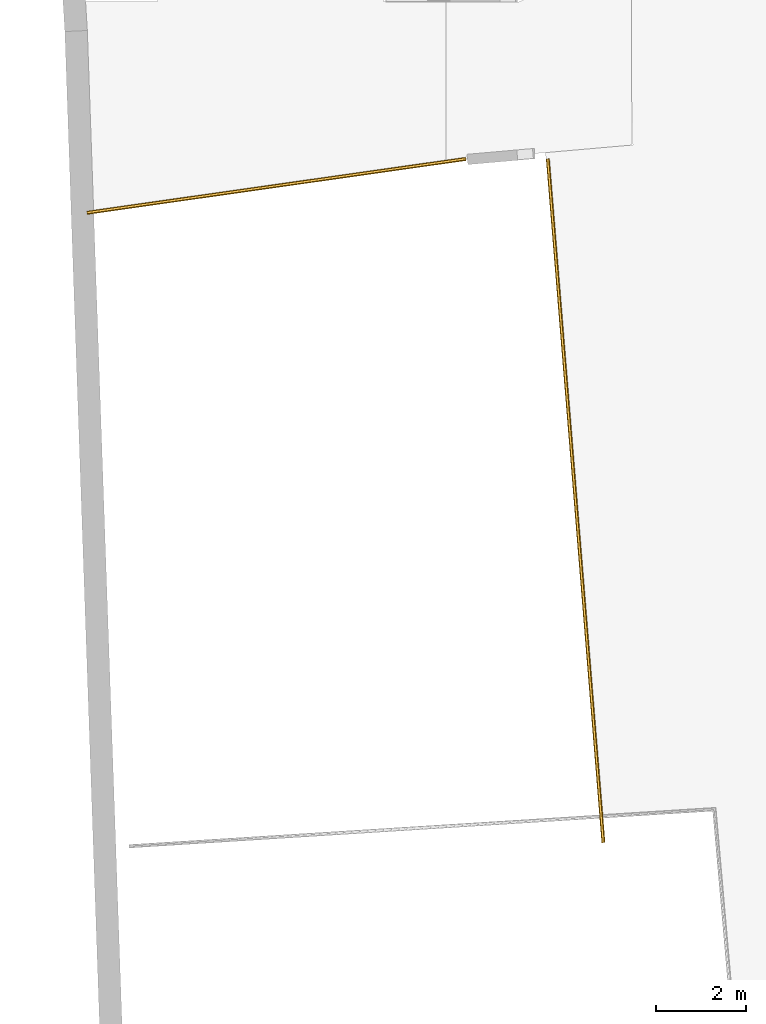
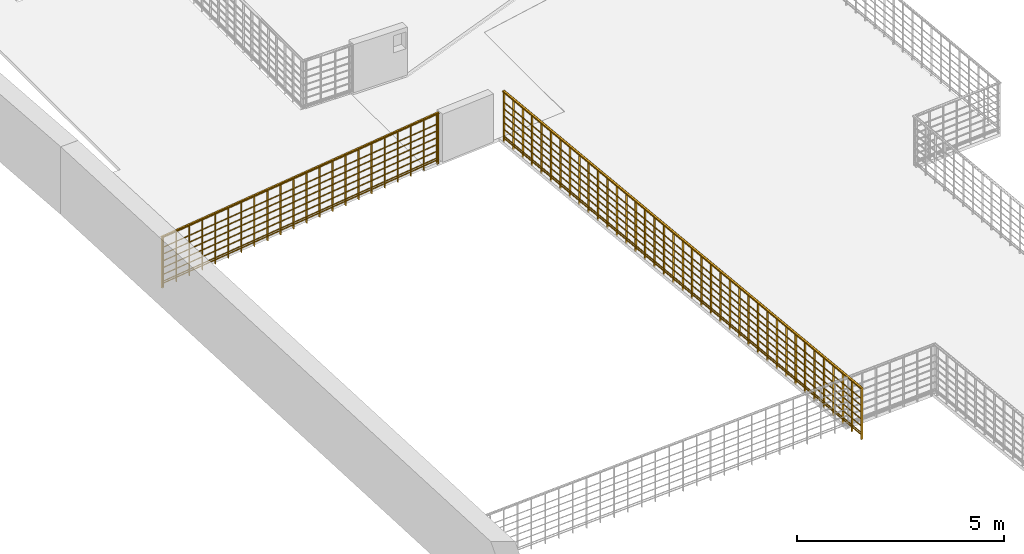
# One storey, part 24 of 30: 2 railings.
"""IFC2X3 building model written with IfcOpenShell, lengths in metres."""

from ifc_helpers import new_model, entity, si_unit, converted_unit, derived_unit, direction, frame, frame_2d, origin, origin_2d_with_axis, place, context, subcontext, project, spatial, polyline, rectangle, circle, outline, extrude, material, material_list, element, save


model = new_model("IFC2X3")

# Units and contexts
model_context = context("Model", 3, precision=1e-05, world=origin(), true_north=direction((6.12303176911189e-17, 1.0)))
body_context = subcontext(model_context, "Body", "Model", "MODEL_VIEW")
ifc_project = project(units=[si_unit("LENGTHUNIT", "METRE"), si_unit("AREAUNIT", "SQUARE_METRE"), si_unit("VOLUMEUNIT", "CUBIC_METRE"), converted_unit("PLANEANGLEUNIT", "DEGREE", entity("IfcRatioMeasure", 0.0174532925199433), si_unit("PLANEANGLEUNIT", "RADIAN"), dimensions=[0, 0, 0, 0, 0, 0, 0]), si_unit("MASSUNIT", "GRAM", prefix="KILO"), derived_unit("MASSDENSITYUNIT", [(si_unit("MASSUNIT", "GRAM", prefix="KILO"), 1), (si_unit("LENGTHUNIT", "METRE"), -3)]), si_unit("TIMEUNIT", "SECOND"), si_unit("FREQUENCYUNIT", "HERTZ"), si_unit("THERMODYNAMICTEMPERATUREUNIT", "DEGREE_CELSIUS"), derived_unit("THERMALTRANSMITTANCEUNIT", [(si_unit("MASSUNIT", "GRAM", prefix="KILO"), 1), (si_unit("THERMODYNAMICTEMPERATUREUNIT", "KELVIN"), -1), (si_unit("TIMEUNIT", "SECOND"), -3)]), derived_unit("VOLUMETRICFLOWRATEUNIT", [(si_unit("LENGTHUNIT", "METRE"), 3), (si_unit("TIMEUNIT", "SECOND"), -1)]), si_unit("ELECTRICCURRENTUNIT", "AMPERE"), si_unit("ELECTRICVOLTAGEUNIT", "VOLT"), si_unit("POWERUNIT", "WATT"), si_unit("FORCEUNIT", "NEWTON", prefix="KILO"), si_unit("ILLUMINANCEUNIT", "LUX"), si_unit("LUMINOUSFLUXUNIT", "LUMEN"), si_unit("LUMINOUSINTENSITYUNIT", "CANDELA"), derived_unit("USERDEFINED", [(si_unit("MASSUNIT", "GRAM", prefix="KILO"), -1), (si_unit("LENGTHUNIT", "METRE"), -2), (si_unit("TIMEUNIT", "SECOND"), 3), (si_unit("LUMINOUSFLUXUNIT", "LUMEN"), 1)]), derived_unit("LINEARVELOCITYUNIT", [(si_unit("LENGTHUNIT", "METRE"), 1), (si_unit("TIMEUNIT", "SECOND"), -1)]), si_unit("PRESSUREUNIT", "PASCAL"), derived_unit("USERDEFINED", [(si_unit("LENGTHUNIT", "METRE"), -2), (si_unit("MASSUNIT", "GRAM", prefix="KILO"), 1), (si_unit("TIMEUNIT", "SECOND"), -2)])], contexts=[model_context])

# Site, building, storey
site_placement = place(None, origin())
site = spatial("IfcSite", under=ifc_project, at=site_placement, Name="Surface", CompositionType="ELEMENT")
building_placement = place(site_placement, origin())
building = spatial("IfcBuilding", under=site, at=building_placement, CompositionType="ELEMENT")
storey_placement = place(building_placement, origin())
storey = spatial("IfcBuildingStorey", under=building, at=storey_placement, Name="Plan des fondations  Maisons 1 et 2", CompositionType="ELEMENT", Elevation=0.0)

# Railings
ifc_material_1 = material(Name="Bois")
ifc_material_2 = material(Name="Finition Peinture Grise")
ifc_material_list_1 = material_list([ifc_material_1, ifc_material_2])
railing_1_placement = place(building_placement, origin())
element("IfcRailing", 1, at=railing_1_placement, inside=storey, material=ifc_material_list_1, Name="Garde-corps:Type Bateau 1,50 m", ObjectType="Garde-corps:Type Bateau 1,50 m", PredefinedType="NOTDEFINED", context=body_context, shape_type="SweptSolid", body=[
    extrude(rectangle(XDim=0.0499999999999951, YDim=0.0140000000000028, at=frame_2d((-3.67761376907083e-15, 4.89755805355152e-15), x_axis=(1.0, 0.0))), frame((62.2926038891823, 64.7878063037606, -0.1), z_axis=(0.0, 0.0, 1.0), x_axis=(0.1408333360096, -0.990033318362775, 0.0)), (0.0, 0.0, 1.0), 1.46984653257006),
    extrude(rectangle(XDim=0.0499999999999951, YDim=0.0140000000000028, at=frame_2d((4.89538964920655e-15, 3.67848113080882e-15), x_axis=(1.0, 0.0))), frame((62.6886172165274, 64.8441396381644, -0.1), z_axis=(0.0, 0.0, 1.0), x_axis=(0.1408333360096, -0.990033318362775, 0.0)), (0.0, 0.0, 1.0), 1.46984653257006),
    extrude(rectangle(XDim=0.0499999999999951, YDim=0.0140000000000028, at=frame_2d((4.89538964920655e-15, 3.67848113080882e-15), x_axis=(1.0, 0.0))), frame((63.0846305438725, 64.9004729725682, -0.1), z_axis=(0.0, 0.0, 1.0), x_axis=(0.1408333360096, -0.990033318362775, 0.0)), (0.0, 0.0, 1.0), 1.46984653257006),
    extrude(rectangle(XDim=0.0499999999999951, YDim=0.0140000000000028, at=frame_2d((3.67761376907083e-15, -4.89755805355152e-15), x_axis=(1.0, 0.0))), frame((63.4806438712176, 64.956806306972, -0.1), z_axis=(0.0, 0.0, 1.0), x_axis=(0.1408333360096, -0.990033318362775, 0.0)), (0.0, 0.0, 1.0), 1.46984653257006),
    extrude(rectangle(XDim=0.0499999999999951, YDim=0.0140000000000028, at=frame_2d((4.89538964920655e-15, 3.67848113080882e-15), x_axis=(1.0, 0.0))), frame((63.8766571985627, 65.0131396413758, -0.1), z_axis=(0.0, 0.0, 1.0), x_axis=(0.1408333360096, -0.990033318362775, 0.0)), (0.0, 0.0, 1.0), 1.46984653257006),
    extrude(rectangle(XDim=0.0499999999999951, YDim=0.0140000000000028, at=frame_2d((4.89538964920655e-15, 3.67848113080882e-15), x_axis=(1.0, 0.0))), frame((64.2726705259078, 65.0694729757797, -0.1), z_axis=(0.0, 0.0, 1.0), x_axis=(0.1408333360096, -0.990033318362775, 0.0)), (0.0, 0.0, 1.0), 1.46984653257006),
    extrude(rectangle(XDim=0.0499999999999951, YDim=0.0140000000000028, at=frame_2d((4.89538964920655e-15, 3.67848113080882e-15), x_axis=(1.0, 0.0))), frame((64.6686838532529, 65.1258063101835, -0.1), z_axis=(0.0, 0.0, 1.0), x_axis=(0.1408333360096, -0.990033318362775, 0.0)), (0.0, 0.0, 1.0), 1.46984653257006),
    extrude(rectangle(XDim=0.0499999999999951, YDim=0.0140000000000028, at=frame_2d((-4.89538964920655e-15, -3.67848113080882e-15), x_axis=(1.0, 0.0))), frame((65.0646971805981, 65.1821396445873, -0.1), z_axis=(0.0, 0.0, 1.0), x_axis=(0.1408333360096, -0.990033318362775, 0.0)), (0.0, 0.0, 1.0), 1.46984653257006),
    extrude(rectangle(XDim=0.0499999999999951, YDim=0.0140000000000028, at=frame_2d((3.67761376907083e-15, -4.89755805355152e-15), x_axis=(1.0, 0.0))), frame((65.4607105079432, 65.2384729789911, -0.1), z_axis=(0.0, 0.0, 1.0), x_axis=(0.1408333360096, -0.990033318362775, 0.0)), (0.0, 0.0, 1.0), 1.46984653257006),
    extrude(rectangle(XDim=0.0499999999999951, YDim=0.0140000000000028, at=frame_2d((4.89538964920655e-15, 3.67848113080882e-15), x_axis=(1.0, 0.0))), frame((65.8567238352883, 65.2948063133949, -0.1), z_axis=(0.0, 0.0, 1.0), x_axis=(0.1408333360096, -0.990033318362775, 0.0)), (0.0, 0.0, 1.0), 1.46984653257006),
    extrude(rectangle(XDim=0.0499999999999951, YDim=0.0140000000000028, at=frame_2d((4.89538964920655e-15, 3.67848113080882e-15), x_axis=(1.0, 0.0))), frame((66.2527371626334, 65.3511396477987, -0.1), z_axis=(0.0, 0.0, 1.0), x_axis=(0.1408333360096, -0.990033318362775, 0.0)), (0.0, 0.0, 1.0), 1.46984653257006),
    extrude(rectangle(XDim=0.0499999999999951, YDim=0.0140000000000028, at=frame_2d((4.89538964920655e-15, 3.67848113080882e-15), x_axis=(1.0, 0.0))), frame((66.6487504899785, 65.4074729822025, -0.1), z_axis=(0.0, 0.0, 1.0), x_axis=(0.1408333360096, -0.990033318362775, 0.0)), (0.0, 0.0, 1.0), 1.46984653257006),
    extrude(rectangle(XDim=0.0499999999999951, YDim=0.0140000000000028, at=frame_2d((3.67761376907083e-15, -4.89755805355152e-15), x_axis=(1.0, 0.0))), frame((67.0447638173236, 65.4638063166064, -0.1), z_axis=(0.0, 0.0, 1.0), x_axis=(0.1408333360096, -0.990033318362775, 0.0)), (0.0, 0.0, 1.0), 1.46984653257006),
    extrude(rectangle(XDim=0.0499999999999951, YDim=0.0140000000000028, at=frame_2d((3.67761376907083e-15, -4.89755805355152e-15), x_axis=(1.0, 0.0))), frame((67.4407771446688, 65.5201396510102, -0.1), z_axis=(0.0, 0.0, 1.0), x_axis=(0.1408333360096, -0.990033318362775, 0.0)), (0.0, 0.0, 1.0), 1.46984653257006),
    extrude(rectangle(XDim=0.0499999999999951, YDim=0.0140000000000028, at=frame_2d((-3.67761376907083e-15, 4.89755805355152e-15), x_axis=(1.0, 0.0))), frame((67.8367904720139, 65.576472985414, -0.1), z_axis=(0.0, 0.0, 1.0), x_axis=(0.1408333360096, -0.990033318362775, 0.0)), (0.0, 0.0, 1.0), 1.46984653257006),
    extrude(rectangle(XDim=0.0499999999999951, YDim=0.0140000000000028, at=frame_2d((4.89538964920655e-15, 3.67848113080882e-15), x_axis=(1.0, 0.0))), frame((68.232803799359, 65.6328063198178, -0.1), z_axis=(0.0, 0.0, 1.0), x_axis=(0.1408333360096, -0.990033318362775, 0.0)), (0.0, 0.0, 1.0), 1.46984653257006),
    extrude(rectangle(XDim=0.0499999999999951, YDim=0.0140000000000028, at=frame_2d((3.67761376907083e-15, -4.89755805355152e-15), x_axis=(1.0, 0.0))), frame((68.6288171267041, 65.6891396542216, -0.1), z_axis=(0.0, 0.0, 1.0), x_axis=(0.1408333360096, -0.990033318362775, 0.0)), (0.0, 0.0, 1.0), 1.46984653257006),
    extrude(rectangle(XDim=0.0499999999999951, YDim=0.0140000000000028, at=frame_2d((3.67761376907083e-15, -4.89755805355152e-15), x_axis=(1.0, 0.0))), frame((69.0248304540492, 65.7454729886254, -0.1), z_axis=(0.0, 0.0, 1.0), x_axis=(0.1408333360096, -0.990033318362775, 0.0)), (0.0, 0.0, 1.0), 1.46984653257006),
    extrude(rectangle(XDim=0.0499999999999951, YDim=0.0140000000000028, at=frame_2d((3.67761376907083e-15, -4.89755805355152e-15), x_axis=(1.0, 0.0))), frame((69.4208437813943, 65.8018063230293, -0.1), z_axis=(0.0, 0.0, 1.0), x_axis=(0.1408333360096, -0.990033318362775, 0.0)), (0.0, 0.0, 1.0), 1.46984653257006),
    extrude(rectangle(XDim=0.0499999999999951, YDim=0.0140000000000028, at=frame_2d((4.89538964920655e-15, 3.67848113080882e-15), x_axis=(1.0, 0.0))), frame((69.8168571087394, 65.8581396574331, -0.1), z_axis=(0.0, 0.0, 1.0), x_axis=(0.1408333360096, -0.990033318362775, 0.0)), (0.0, 0.0, 1.0), 1.46984653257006),
    extrude(rectangle(XDim=0.0499999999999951, YDim=0.0140000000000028, at=frame_2d((4.89538964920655e-15, 3.67848113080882e-15), x_axis=(1.0, 0.0))), frame((70.2128704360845, 65.9144729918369, -0.1), z_axis=(0.0, 0.0, 1.0), x_axis=(0.1408333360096, -0.990033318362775, 0.0)), (0.0, 0.0, 1.0), 1.46984653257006),
    extrude(rectangle(XDim=0.0499999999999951, YDim=0.0140000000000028, at=frame_2d((3.67761376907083e-15, -4.89755805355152e-15), x_axis=(1.0, 0.0))), frame((70.6088837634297, 65.9708063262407, -0.1), z_axis=(0.0, 0.0, 1.0), x_axis=(0.1408333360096, -0.990033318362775, 0.0)), (0.0, 0.0, 1.0), 1.46984653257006),
    extrude(rectangle(XDim=0.0499999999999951, YDim=0.0140000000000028, at=frame_2d((3.67761376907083e-15, -4.89755805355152e-15), x_axis=(1.0, 0.0))), frame((62.2530025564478, 64.7821729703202, -0.1), z_axis=(0.0, 0.0, 1.0), x_axis=(0.1408333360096, -0.990033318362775, 0.0)), (0.0, 0.0, 1.0), 1.46984653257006),
    extrude(rectangle(XDim=0.0499999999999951, YDim=0.0140000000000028, at=frame_2d((4.89538964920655e-15, 3.67848113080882e-15), x_axis=(1.0, 0.0))), frame((70.6484850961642, 65.9764396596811, -0.1), z_axis=(0.0, 0.0, 1.0), x_axis=(0.1408333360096, -0.990033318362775, 0.0)), (0.0, 0.0, 1.0), 1.46984653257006),
    extrude(outline(polyline([(-0.0109067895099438, -0.0384843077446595), (0.00177588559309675, -0.0384843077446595), (0.0141514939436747, -0.0318300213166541), (0.0240801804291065, -0.0196720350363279), (0.0298451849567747, -0.00411257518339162), (0.0304496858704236, 0.0121579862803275), (0.0257891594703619, 0.0263263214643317), (0.016669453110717, 0.035942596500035), (0.0109067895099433, 0.0384843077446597), (-0.00177588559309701, 0.0384843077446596), (-0.0141514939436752, 0.0318300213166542), (-0.024080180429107, 0.019672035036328), (-0.0298451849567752, 0.00411257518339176), (-0.0304496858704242, -0.0121579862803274), (-0.0257891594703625, -0.0263263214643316), (-0.0166694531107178, -0.0359425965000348), (-0.0109067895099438, -0.0384843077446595)])), frame((62.2443398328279, 64.7804366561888, 1.4), z_axis=(0.990033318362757, 0.140833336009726, 0.0), x_axis=(-0.0384009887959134, 0.269952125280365, -0.962107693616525)), (0.0, 0.0, 1.0), 8.5),
    extrude(circle(Radius=0.015, at=origin_2d_with_axis()), frame((62.2443398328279, 64.7804366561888, 0.025), z_axis=(0.990033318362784, 0.140833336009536, 0.0), x_axis=(-0.140833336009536, 0.990033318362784, 0.0)), (0.0, 0.0, 1.0), 8.5),
    extrude(circle(Radius=0.015, at=origin_2d_with_axis()), frame((62.2443398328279, 64.7804366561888, 1.085), z_axis=(0.990033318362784, 0.140833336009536, 0.0), x_axis=(-0.140833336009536, 0.990033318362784, 0.0)), (0.0, 0.0, 1.0), 8.5),
    extrude(circle(Radius=0.015, at=origin_2d_with_axis()), frame((62.2443398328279, 64.7804366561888, 0.885), z_axis=(0.990033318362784, 0.140833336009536, 0.0), x_axis=(-0.140833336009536, 0.990033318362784, 0.0)), (0.0, 0.0, 1.0), 8.5),
    extrude(circle(Radius=0.015, at=origin_2d_with_axis()), frame((62.2443398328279, 64.7804366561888, 0.685), z_axis=(0.990033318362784, 0.140833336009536, 0.0), x_axis=(-0.140833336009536, 0.990033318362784, 0.0)), (0.0, 0.0, 1.0), 8.5),
    extrude(circle(Radius=0.015, at=origin_2d_with_axis()), frame((62.2443398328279, 64.7804366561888, 0.485), z_axis=(0.990033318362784, 0.140833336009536, 0.0), x_axis=(-0.140833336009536, 0.990033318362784, 0.0)), (0.0, 0.0, 1.0), 8.5),
    extrude(circle(Radius=0.015, at=origin_2d_with_axis()), frame((62.2443398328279, 64.7804366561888, 0.285), z_axis=(0.990033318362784, 0.140833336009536, 0.0), x_axis=(-0.140833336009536, 0.990033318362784, 0.0)), (0.0, 0.0, 1.0), 8.5),
    extrude(circle(Radius=0.015, at=origin_2d_with_axis()), frame((62.2443398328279, 64.7804366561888, 0.085), z_axis=(0.990033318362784, 0.140833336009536, 0.0), x_axis=(-0.140833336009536, 0.990033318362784, 0.0)), (0.0, 0.0, 1.0), 8.5),
])
ifc_material_list_2 = material_list([ifc_material_1, ifc_material_2])
railing_2_placement = place(building_placement, origin())
element("IfcRailing", 2, at=railing_2_placement, inside=storey, material=ifc_material_list_2, Name="Garde-corps:Type Bateau 1,50 m", ObjectType="Garde-corps:Type Bateau 1,50 m", PredefinedType="NOTDEFINED", context=body_context, shape_type="SweptSolid", body=[
    extrude(rectangle(XDim=0.0500000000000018, YDim=0.0139999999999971, at=frame_2d((3.50414142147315e-16, 4.31729305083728e-15), x_axis=(1.0, 0.0))), frame((73.7113185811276, 50.8112138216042, -0.1), z_axis=(0.0, 0.0, 1.0), x_axis=(0.996709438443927, 0.0810573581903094, 0.0)), (0.0, 0.0, 1.0), 1.46984653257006),
    extrude(rectangle(XDim=0.0500000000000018, YDim=0.0139999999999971, at=frame_2d((3.50414142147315e-16, 4.31729305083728e-15), x_axis=(1.0, 0.0))), frame((73.6788956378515, 51.2098975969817, -0.1), z_axis=(0.0, 0.0, 1.0), x_axis=(0.996709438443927, 0.0810573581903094, 0.0)), (0.0, 0.0, 1.0), 1.46984653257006),
    extrude(rectangle(XDim=0.0500000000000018, YDim=0.0139999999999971, at=frame_2d((-3.50414142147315e-16, -4.31729305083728e-15), x_axis=(1.0, 0.0))), frame((73.6464726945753, 51.6085813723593, -0.1), z_axis=(0.0, 0.0, 1.0), x_axis=(0.996709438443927, 0.0810573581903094, 0.0)), (0.0, 0.0, 1.0), 1.46984653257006),
    extrude(rectangle(XDim=0.0500000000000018, YDim=0.0139999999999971, at=frame_2d((-3.50414142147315e-16, -4.31729305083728e-15), x_axis=(1.0, 0.0))), frame((73.6140497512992, 52.0072651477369, -0.1), z_axis=(0.0, 0.0, 1.0), x_axis=(0.996709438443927, 0.0810573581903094, 0.0)), (0.0, 0.0, 1.0), 1.46984653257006),
    extrude(rectangle(XDim=0.0500000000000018, YDim=0.0139999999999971, at=frame_2d((3.50414142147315e-16, 4.31729305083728e-15), x_axis=(1.0, 0.0))), frame((73.5816268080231, 52.4059489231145, -0.1), z_axis=(0.0, 0.0, 1.0), x_axis=(0.996709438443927, 0.0810573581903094, 0.0)), (0.0, 0.0, 1.0), 1.46984653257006),
    extrude(rectangle(XDim=0.0500000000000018, YDim=0.0139999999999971, at=frame_2d((3.50414142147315e-16, 4.31729305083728e-15), x_axis=(1.0, 0.0))), frame((73.549203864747, 52.804632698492, -0.1), z_axis=(0.0, 0.0, 1.0), x_axis=(0.996709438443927, 0.0810573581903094, 0.0)), (0.0, 0.0, 1.0), 1.46984653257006),
    extrude(rectangle(XDim=0.0500000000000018, YDim=0.0139999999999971, at=frame_2d((-8.28156987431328e-15, 5.01942237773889e-15), x_axis=(1.0, 0.0))), frame((73.5167809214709, 53.2033164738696, -0.1), z_axis=(0.0, 0.0, 1.0), x_axis=(0.996709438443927, 0.0810573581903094, 0.0)), (0.0, 0.0, 1.0), 1.46984653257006),
    extrude(rectangle(XDim=0.0500000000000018, YDim=0.0139999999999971, at=frame_2d((-8.28156987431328e-15, 5.01942237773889e-15), x_axis=(1.0, 0.0))), frame((73.4843579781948, 53.6020002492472, -0.1), z_axis=(0.0, 0.0, 1.0), x_axis=(0.996709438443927, 0.0810573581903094, 0.0)), (0.0, 0.0, 1.0), 1.46984653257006),
    extrude(rectangle(XDim=0.0500000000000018, YDim=0.0139999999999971, at=frame_2d((3.50414142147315e-16, 4.31729305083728e-15), x_axis=(1.0, 0.0))), frame((73.4519350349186, 54.0006840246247, -0.1), z_axis=(0.0, 0.0, 1.0), x_axis=(0.996709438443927, 0.0810573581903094, 0.0)), (0.0, 0.0, 1.0), 1.46984653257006),
    extrude(rectangle(XDim=0.0500000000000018, YDim=0.0139999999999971, at=frame_2d((3.50414142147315e-16, 4.31729305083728e-15), x_axis=(1.0, 0.0))), frame((73.4195120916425, 54.3993678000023, -0.1), z_axis=(0.0, 0.0, 1.0), x_axis=(0.996709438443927, 0.0810573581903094, 0.0)), (0.0, 0.0, 1.0), 1.46984653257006),
    extrude(rectangle(XDim=0.0500000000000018, YDim=0.0139999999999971, at=frame_2d((3.50414142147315e-16, 4.31729305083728e-15), x_axis=(1.0, 0.0))), frame((73.3870891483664, 54.7980515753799, -0.1), z_axis=(0.0, 0.0, 1.0), x_axis=(0.996709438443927, 0.0810573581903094, 0.0)), (0.0, 0.0, 1.0), 1.46984653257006),
    extrude(rectangle(XDim=0.0500000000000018, YDim=0.0139999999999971, at=frame_2d((3.50414142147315e-16, 4.31729305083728e-15), x_axis=(1.0, 0.0))), frame((73.3546662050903, 55.1967353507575, -0.1), z_axis=(0.0, 0.0, 1.0), x_axis=(0.996709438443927, 0.0810573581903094, 0.0)), (0.0, 0.0, 1.0), 1.46984653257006),
    extrude(rectangle(XDim=0.0500000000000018, YDim=0.0139999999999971, at=frame_2d((3.50414142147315e-16, 4.31729305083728e-15), x_axis=(1.0, 0.0))), frame((73.3222432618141, 55.595419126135, -0.1), z_axis=(0.0, 0.0, 1.0), x_axis=(0.996709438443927, 0.0810573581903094, 0.0)), (0.0, 0.0, 1.0), 1.46984653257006),
    extrude(rectangle(XDim=0.0500000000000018, YDim=0.0139999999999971, at=frame_2d((-3.50414142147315e-16, -4.31729305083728e-15), x_axis=(1.0, 0.0))), frame((73.289820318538, 55.9941029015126, -0.1), z_axis=(0.0, 0.0, 1.0), x_axis=(0.996709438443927, 0.0810573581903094, 0.0)), (0.0, 0.0, 1.0), 1.46984653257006),
    extrude(rectangle(XDim=0.0500000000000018, YDim=0.0139999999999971, at=frame_2d((3.50414142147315e-16, 4.31729305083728e-15), x_axis=(1.0, 0.0))), frame((73.2573973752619, 56.3927866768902, -0.1), z_axis=(0.0, 0.0, 1.0), x_axis=(0.996709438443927, 0.0810573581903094, 0.0)), (0.0, 0.0, 1.0), 1.46984653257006),
    extrude(rectangle(XDim=0.0500000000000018, YDim=0.0139999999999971, at=frame_2d((3.50414142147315e-16, 4.31729305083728e-15), x_axis=(1.0, 0.0))), frame((73.2249744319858, 56.7914704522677, -0.1), z_axis=(0.0, 0.0, 1.0), x_axis=(0.996709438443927, 0.0810573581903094, 0.0)), (0.0, 0.0, 1.0), 1.46984653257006),
    extrude(rectangle(XDim=0.0500000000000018, YDim=0.0139999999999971, at=frame_2d((3.50414142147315e-16, 4.31729305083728e-15), x_axis=(1.0, 0.0))), frame((73.1925514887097, 57.1901542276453, -0.1), z_axis=(0.0, 0.0, 1.0), x_axis=(0.996709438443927, 0.0810573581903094, 0.0)), (0.0, 0.0, 1.0), 1.46984653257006),
    extrude(rectangle(XDim=0.0500000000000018, YDim=0.0139999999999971, at=frame_2d((3.50414142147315e-16, 4.31729305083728e-15), x_axis=(1.0, 0.0))), frame((73.1601285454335, 57.5888380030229, -0.1), z_axis=(0.0, 0.0, 1.0), x_axis=(0.996709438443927, 0.0810573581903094, 0.0)), (0.0, 0.0, 1.0), 1.46984653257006),
    extrude(rectangle(XDim=0.0500000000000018, YDim=0.0139999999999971, at=frame_2d((-3.50414142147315e-16, -4.31729305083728e-15), x_axis=(1.0, 0.0))), frame((73.1277056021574, 57.9875217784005, -0.1), z_axis=(0.0, 0.0, 1.0), x_axis=(0.996709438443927, 0.0810573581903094, 0.0)), (0.0, 0.0, 1.0), 1.46984653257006),
    extrude(rectangle(XDim=0.0500000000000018, YDim=0.0139999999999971, at=frame_2d((3.50414142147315e-16, 4.31729305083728e-15), x_axis=(1.0, 0.0))), frame((73.0952826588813, 58.386205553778, -0.1), z_axis=(0.0, 0.0, 1.0), x_axis=(0.996709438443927, 0.0810573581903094, 0.0)), (0.0, 0.0, 1.0), 1.46984653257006),
    extrude(rectangle(XDim=0.0500000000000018, YDim=0.0139999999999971, at=frame_2d((3.50414142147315e-16, 4.31729305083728e-15), x_axis=(1.0, 0.0))), frame((73.0628597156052, 58.7848893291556, -0.1), z_axis=(0.0, 0.0, 1.0), x_axis=(0.996709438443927, 0.0810573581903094, 0.0)), (0.0, 0.0, 1.0), 1.46984653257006),
    extrude(rectangle(XDim=0.0500000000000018, YDim=0.0139999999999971, at=frame_2d((-8.28156987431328e-15, 5.01942237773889e-15), x_axis=(1.0, 0.0))), frame((73.0304367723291, 59.1835731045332, -0.1), z_axis=(0.0, 0.0, 1.0), x_axis=(0.996709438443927, 0.0810573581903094, 0.0)), (0.0, 0.0, 1.0), 1.46984653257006),
    extrude(rectangle(XDim=0.0500000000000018, YDim=0.0139999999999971, at=frame_2d((-8.28156987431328e-15, 5.01942237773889e-15), x_axis=(1.0, 0.0))), frame((72.9980138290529, 59.5822568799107, -0.1), z_axis=(0.0, 0.0, 1.0), x_axis=(0.996709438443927, 0.0810573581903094, 0.0)), (0.0, 0.0, 1.0), 1.46984653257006),
    extrude(rectangle(XDim=0.0500000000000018, YDim=0.0139999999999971, at=frame_2d((-3.50414142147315e-16, -4.31729305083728e-15), x_axis=(1.0, 0.0))), frame((72.9655908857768, 59.9809406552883, -0.1), z_axis=(0.0, 0.0, 1.0), x_axis=(0.996709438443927, 0.0810573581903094, 0.0)), (0.0, 0.0, 1.0), 1.46984653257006),
    extrude(rectangle(XDim=0.0500000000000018, YDim=0.0139999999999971, at=frame_2d((3.50414142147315e-16, 4.31729305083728e-15), x_axis=(1.0, 0.0))), frame((72.9331679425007, 60.3796244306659, -0.1), z_axis=(0.0, 0.0, 1.0), x_axis=(0.996709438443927, 0.0810573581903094, 0.0)), (0.0, 0.0, 1.0), 1.46984653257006),
    extrude(rectangle(XDim=0.0500000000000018, YDim=0.0139999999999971, at=frame_2d((3.50414142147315e-16, 4.31729305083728e-15), x_axis=(1.0, 0.0))), frame((72.9007449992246, 60.7783082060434, -0.1), z_axis=(0.0, 0.0, 1.0), x_axis=(0.996709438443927, 0.0810573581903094, 0.0)), (0.0, 0.0, 1.0), 1.46984653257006),
    extrude(rectangle(XDim=0.0500000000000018, YDim=0.0139999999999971, at=frame_2d((3.50414142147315e-16, 4.31729305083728e-15), x_axis=(1.0, 0.0))), frame((72.8683220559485, 61.176991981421, -0.1), z_axis=(0.0, 0.0, 1.0), x_axis=(0.996709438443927, 0.0810573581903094, 0.0)), (0.0, 0.0, 1.0), 1.46984653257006),
    extrude(rectangle(XDim=0.0500000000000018, YDim=0.0139999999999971, at=frame_2d((3.50414142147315e-16, 4.31729305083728e-15), x_axis=(1.0, 0.0))), frame((72.8358991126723, 61.5756757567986, -0.1), z_axis=(0.0, 0.0, 1.0), x_axis=(0.996709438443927, 0.0810573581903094, 0.0)), (0.0, 0.0, 1.0), 1.46984653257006),
    extrude(rectangle(XDim=0.0500000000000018, YDim=0.0139999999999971, at=frame_2d((-3.50414142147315e-16, -4.31729305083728e-15), x_axis=(1.0, 0.0))), frame((72.8034761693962, 61.9743595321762, -0.1), z_axis=(0.0, 0.0, 1.0), x_axis=(0.996709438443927, 0.0810573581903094, 0.0)), (0.0, 0.0, 1.0), 1.46984653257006),
    extrude(rectangle(XDim=0.0500000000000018, YDim=0.0139999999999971, at=frame_2d((3.50414142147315e-16, 4.31729305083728e-15), x_axis=(1.0, 0.0))), frame((72.7710532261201, 62.3730433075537, -0.1), z_axis=(0.0, 0.0, 1.0), x_axis=(0.996709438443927, 0.0810573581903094, 0.0)), (0.0, 0.0, 1.0), 1.46984653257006),
    extrude(rectangle(XDim=0.0500000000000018, YDim=0.0139999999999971, at=frame_2d((3.50414142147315e-16, 4.31729305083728e-15), x_axis=(1.0, 0.0))), frame((72.738630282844, 62.7717270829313, -0.1), z_axis=(0.0, 0.0, 1.0), x_axis=(0.996709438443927, 0.0810573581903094, 0.0)), (0.0, 0.0, 1.0), 1.46984653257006),
    extrude(rectangle(XDim=0.0500000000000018, YDim=0.0139999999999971, at=frame_2d((-3.50414142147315e-16, -4.31729305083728e-15), x_axis=(1.0, 0.0))), frame((72.7062073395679, 63.1704108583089, -0.1), z_axis=(0.0, 0.0, 1.0), x_axis=(0.996709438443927, 0.0810573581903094, 0.0)), (0.0, 0.0, 1.0), 1.46984653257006),
    extrude(rectangle(XDim=0.0500000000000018, YDim=0.0139999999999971, at=frame_2d((3.50414142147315e-16, 4.31729305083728e-15), x_axis=(1.0, 0.0))), frame((72.6737843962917, 63.5690946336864, -0.1), z_axis=(0.0, 0.0, 1.0), x_axis=(0.996709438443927, 0.0810573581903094, 0.0)), (0.0, 0.0, 1.0), 1.46984653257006),
    extrude(rectangle(XDim=0.0500000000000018, YDim=0.0139999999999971, at=frame_2d((-3.50414142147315e-16, -4.31729305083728e-15), x_axis=(1.0, 0.0))), frame((72.6413614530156, 63.967778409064, -0.1), z_axis=(0.0, 0.0, 1.0), x_axis=(0.996709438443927, 0.0810573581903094, 0.0)), (0.0, 0.0, 1.0), 1.46984653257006),
    extrude(rectangle(XDim=0.0500000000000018, YDim=0.0139999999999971, at=frame_2d((3.50414142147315e-16, 4.31729305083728e-15), x_axis=(1.0, 0.0))), frame((72.6089385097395, 64.3664621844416, -0.1), z_axis=(0.0, 0.0, 1.0), x_axis=(0.996709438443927, 0.0810573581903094, 0.0)), (0.0, 0.0, 1.0), 1.46984653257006),
    extrude(rectangle(XDim=0.0500000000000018, YDim=0.0139999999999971, at=frame_2d((3.50414142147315e-16, 4.31729305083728e-15), x_axis=(1.0, 0.0))), frame((72.5765155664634, 64.7651459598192, -0.1), z_axis=(0.0, 0.0, 1.0), x_axis=(0.996709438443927, 0.0810573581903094, 0.0)), (0.0, 0.0, 1.0), 1.46984653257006),
    extrude(rectangle(XDim=0.0500000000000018, YDim=0.0139999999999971, at=frame_2d((-3.50414142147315e-16, -4.31729305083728e-15), x_axis=(1.0, 0.0))), frame((72.5440926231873, 65.1638297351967, -0.1), z_axis=(0.0, 0.0, 1.0), x_axis=(0.996709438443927, 0.0810573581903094, 0.0)), (0.0, 0.0, 1.0), 1.46984653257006),
    extrude(rectangle(XDim=0.0500000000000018, YDim=0.0139999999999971, at=frame_2d((-8.28156987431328e-15, 5.01942237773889e-15), x_axis=(1.0, 0.0))), frame((72.5116696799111, 65.5625135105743, -0.1), z_axis=(0.0, 0.0, 1.0), x_axis=(0.996709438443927, 0.0810573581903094, 0.0)), (0.0, 0.0, 1.0), 1.46984653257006),
    extrude(rectangle(XDim=0.0500000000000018, YDim=0.0139999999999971, at=frame_2d((-8.98413288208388e-15, -3.61473004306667e-15), x_axis=(1.0, 0.0))), frame((72.479246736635, 65.9611972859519, -0.1), z_axis=(0.0, 0.0, 1.0), x_axis=(0.996709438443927, 0.0810573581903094, 0.0)), (0.0, 0.0, 1.0), 1.46984653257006),
    extrude(rectangle(XDim=0.0500000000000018, YDim=0.0139999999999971, at=frame_2d((-8.28156987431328e-15, 5.01942237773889e-15), x_axis=(1.0, 0.0))), frame((73.7120393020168, 50.8023515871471, -0.1), z_axis=(0.0, 0.0, 1.0), x_axis=(0.996709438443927, 0.0810573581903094, 0.0)), (0.0, 0.0, 1.0), 1.46984653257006),
    extrude(rectangle(XDim=0.0500000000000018, YDim=0.0139999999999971, at=frame_2d((3.50414142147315e-16, 4.31729305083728e-15), x_axis=(1.0, 0.0))), frame((72.4785260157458, 65.9700595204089, -0.1), z_axis=(0.0, 0.0, 1.0), x_axis=(0.996709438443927, 0.0810573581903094, 0.0)), (0.0, 0.0, 1.0), 1.46984653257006),
    extrude(outline(polyline([(-0.0109067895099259, -0.038484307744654), (0.00177588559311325, -0.038484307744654), (0.0141514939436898, -0.0318300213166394), (0.0240801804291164, -0.0196720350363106), (0.02984518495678, -0.00411257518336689), (0.0304496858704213, 0.012157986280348), (0.0257891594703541, 0.0263263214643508), (0.0166694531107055, 0.0359425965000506), (0.0109067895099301, 0.0384843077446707), (-0.0017758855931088, 0.0384843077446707), (-0.0141514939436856, 0.0318300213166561), (-0.0240801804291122, 0.0196720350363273), (-0.0298451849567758, 0.00411257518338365), (-0.0304496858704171, -0.0121579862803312), (-0.0257891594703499, -0.026326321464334), (-0.0166694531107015, -0.0359425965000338), (-0.0109067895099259, -0.038484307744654)])), frame((73.7132516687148, 50.7936001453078, 1.4), z_axis=(-0.0810573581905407, 0.996709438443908, 0.0), x_axis=(-0.271772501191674, -0.0221018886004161, -0.962107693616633)), (0.0, 0.0, 1.0), 15.2377829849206),
    extrude(circle(Radius=0.015, at=origin_2d_with_axis()), frame((73.7132516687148, 50.7936001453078, 0.025), z_axis=(-0.0810573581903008, 0.996709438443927, 0.0), x_axis=(-0.996709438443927, -0.0810573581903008, 0.0)), (0.0, 0.0, 1.0), 15.2377829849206),
    extrude(circle(Radius=0.015, at=origin_2d_with_axis()), frame((73.7132516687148, 50.7936001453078, 1.085), z_axis=(-0.0810573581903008, 0.996709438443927, 0.0), x_axis=(-0.996709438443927, -0.0810573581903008, 0.0)), (0.0, 0.0, 1.0), 15.2377829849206),
    extrude(circle(Radius=0.015, at=origin_2d_with_axis()), frame((73.7132516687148, 50.7936001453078, 0.885), z_axis=(-0.0810573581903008, 0.996709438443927, 0.0), x_axis=(-0.996709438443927, -0.0810573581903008, 0.0)), (0.0, 0.0, 1.0), 15.2377829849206),
    extrude(circle(Radius=0.015, at=origin_2d_with_axis()), frame((73.7132516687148, 50.7936001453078, 0.685), z_axis=(-0.0810573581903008, 0.996709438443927, 0.0), x_axis=(-0.996709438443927, -0.0810573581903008, 0.0)), (0.0, 0.0, 1.0), 15.2377829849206),
    extrude(circle(Radius=0.015, at=origin_2d_with_axis()), frame((73.7132516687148, 50.7936001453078, 0.485), z_axis=(-0.0810573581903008, 0.996709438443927, 0.0), x_axis=(-0.996709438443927, -0.0810573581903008, 0.0)), (0.0, 0.0, 1.0), 15.2377829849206),
    extrude(circle(Radius=0.015, at=origin_2d_with_axis()), frame((73.7132516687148, 50.7936001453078, 0.285), z_axis=(-0.0810573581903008, 0.996709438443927, 0.0), x_axis=(-0.996709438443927, -0.0810573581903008, 0.0)), (0.0, 0.0, 1.0), 15.2377829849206),
    extrude(circle(Radius=0.015, at=origin_2d_with_axis()), frame((73.7132516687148, 50.7936001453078, 0.085), z_axis=(-0.0810573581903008, 0.996709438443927, 0.0), x_axis=(-0.996709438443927, -0.0810573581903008, 0.0)), (0.0, 0.0, 1.0), 15.2377829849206),
])

save(model, "model.ifc")
